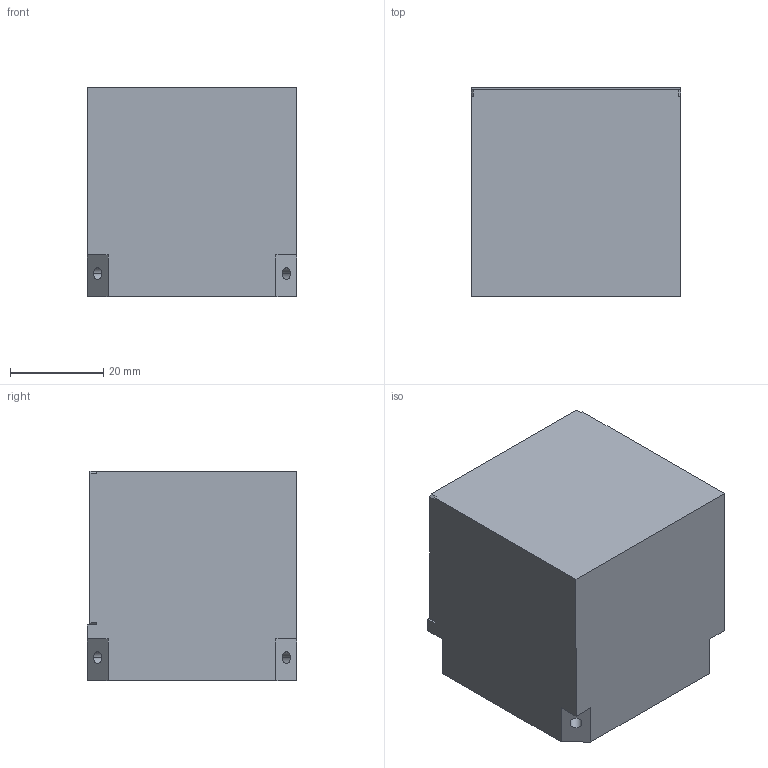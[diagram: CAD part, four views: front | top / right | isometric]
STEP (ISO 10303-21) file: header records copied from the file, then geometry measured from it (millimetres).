
FILE_DESCRIPTION (( 'STEP AP214' ), '1' );
FILE_NAME ('MML-PL40HR.STEP', '2026-02-24T06:20:18', ( '' ), ( '' ), 'SwSTEP 2.0', 'SolidWorks 2025', '' );
FILE_SCHEMA (( 'AUTOMOTIVE_DESIGN' ));
Length unit declared in the file: millimetre
Products named in the file (1): MML-PL40HR
Bounding box: 45 x 45 x 45 mm (x, y, z)
Volume: 55301.1 mm3; surface area: 17239.7 mm2
Topology: 1 solids, 9 shells, 294 faces, 739 edges, 453 vertices
Faces by surface type: plane 156, cone 62, cylinder 52, torus 16, sphere 8
Entity records: 9189 total; most frequent: CARTESIAN_POINT 2226, DIRECTION 1493, ORIENTED_EDGE 1446, EDGE_CURVE 723, AXIS2_PLACEMENT_3D 615, VERTEX_POINT 453, CIRCLE 320, EDGE_LOOP 318
